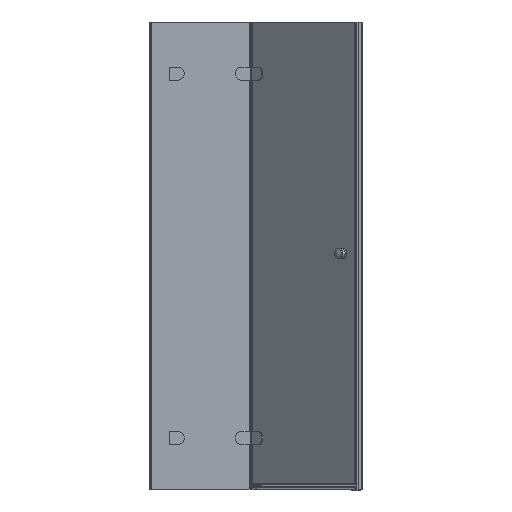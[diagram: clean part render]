
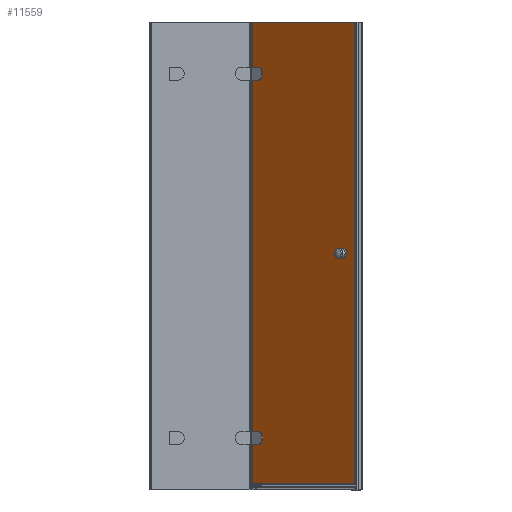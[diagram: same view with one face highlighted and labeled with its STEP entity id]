
A CAD part, left-side view. The second image highlights one B-rep face of the part: STEP entity #11559.
In plain terms, the highlighted planar face has unit normal (-0.707, 0.707, 0).
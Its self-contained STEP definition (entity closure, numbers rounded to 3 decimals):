
#164=LINE($,#15809,#1344);
#168=LINE($,#15817,#1348);
#172=LINE($,#15828,#1352);
#214=LINE($,#15937,#1394);
#218=LINE($,#15945,#1398);
#222=LINE($,#15956,#1402);
#1186=LINE($,#19211,#2366);
#1202=LINE($,#19251,#2382);
#1259=LINE($,#19412,#2439);
#1260=LINE($,#19413,#2440);
#1344=VECTOR($,#12740,52.);
#1348=VECTOR($,#12746,23.);
#1352=VECTOR($,#12758,23.);
#1394=VECTOR($,#12864,52.);
#1398=VECTOR($,#12870,23.);
#1402=VECTOR($,#12882,23.);
#2366=VECTOR($,#15346,1880.);
#2382=VECTOR($,#15384,595.);
#2439=VECTOR($,#15557,595.);
#2440=VECTOR($,#15558,1880.);
#2529=FACE_BOUND($,#3972,.T.);
#2530=FACE_BOUND($,#3973,.T.);
#2531=FACE_BOUND($,#3974,.T.);
#3972=EDGE_LOOP($,(#9754,#9755,#9756,#9757));
#3973=EDGE_LOOP($,(#9758,#9759,#9760,#9761));
#3974=EDGE_LOOP($,(#9762,#9763,#9764,#9765));
#4012=CIRCLE($,#11647,26.);
#4024=CIRCLE($,#11684,26.);
#4350=VERTEX_POINT($,#15807);
#4351=VERTEX_POINT($,#15808);
#4354=VERTEX_POINT($,#15816);
#4356=VERTEX_POINT($,#15822);
#4391=VERTEX_POINT($,#15935);
#4392=VERTEX_POINT($,#15936);
#4395=VERTEX_POINT($,#15944);
#4397=VERTEX_POINT($,#15950);
#5162=VERTEX_POINT($,#19205);
#5164=VERTEX_POINT($,#19209);
#5177=VERTEX_POINT($,#19250);
#5223=VERTEX_POINT($,#19411);
#5333=EDGE_CURVE($,#4350,#4351,#164,.T.);
#5337=EDGE_CURVE($,#4351,#4354,#168,.T.);
#5340=EDGE_CURVE($,#4354,#4356,#4012,.T.);
#5343=EDGE_CURVE($,#4356,#4350,#172,.T.);
#5395=EDGE_CURVE($,#4391,#4392,#214,.T.);
#5399=EDGE_CURVE($,#4392,#4395,#218,.T.);
#5402=EDGE_CURVE($,#4395,#4397,#4024,.T.);
#5405=EDGE_CURVE($,#4397,#4391,#222,.T.);
#6654=EDGE_CURVE($,#5162,#5164,#1186,.T.);
#6674=EDGE_CURVE($,#5177,#5162,#1202,.T.);
#6756=EDGE_CURVE($,#5223,#5164,#1259,.T.);
#6757=EDGE_CURVE($,#5177,#5223,#1260,.T.);
#9754=ORIENTED_EDGE($,*,*,#5333,.T.);
#9755=ORIENTED_EDGE($,*,*,#5337,.T.);
#9756=ORIENTED_EDGE($,*,*,#5340,.T.);
#9757=ORIENTED_EDGE($,*,*,#5343,.T.);
#9758=ORIENTED_EDGE($,*,*,#5395,.T.);
#9759=ORIENTED_EDGE($,*,*,#5399,.T.);
#9760=ORIENTED_EDGE($,*,*,#5402,.T.);
#9761=ORIENTED_EDGE($,*,*,#5405,.T.);
#9762=ORIENTED_EDGE($,*,*,#6674,.T.);
#9763=ORIENTED_EDGE($,*,*,#6654,.T.);
#9764=ORIENTED_EDGE($,*,*,#6756,.F.);
#9765=ORIENTED_EDGE($,*,*,#6757,.F.);
#10292=PLANE($,#12505);
#11559=ADVANCED_FACE($,(#2529,#2530,#2531),#10292,.T.);
#11647=AXIS2_PLACEMENT_3D($,#15823,#12751,#12752);
#11684=AXIS2_PLACEMENT_3D($,#15951,#12875,#12876);
#12505=AXIS2_PLACEMENT_3D($,#19410,#15555,#15556);
#12740=DIRECTION($,(0.,0.,1.));
#12746=DIRECTION($,(-0.707,-0.707,0.));
#12751=DIRECTION('center_axis',(0.707,-0.707,0.));
#12752=DIRECTION('ref_axis',(0.,0.,
-1.));
#12758=DIRECTION($,(0.707,0.707,0.));
#12864=DIRECTION($,(0.,0.,1.));
#12870=DIRECTION($,(-0.707,-0.707,0.));
#12875=DIRECTION('center_axis',(0.707,-0.707,0.));
#12876=DIRECTION('ref_axis',(0.,0.,
-1.));
#12882=DIRECTION($,(0.707,0.707,0.));
#15346=DIRECTION($,(0.,0.,1.));
#15384=DIRECTION($,(-0.707,-0.707,0.));
#15555=DIRECTION('center_axis',(-0.707,0.707,0.));
#15556=DIRECTION('ref_axis',(-0.707,-0.707,0.));
#15557=DIRECTION($,(-0.707,-0.707,0.));
#15558=DIRECTION($,(0.,0.,1.));
#15807=CARTESIAN_POINT('',(1332.351,298.774,-255.056));
#15808=CARTESIAN_POINT('',(1332.351,298.774,-203.056));
#15809=CARTESIAN_POINT($,(1332.351,298.774,-311.056));
#15816=CARTESIAN_POINT('',(1316.088,282.511,-203.056));
#15817=CARTESIAN_POINT($,(1328.816,295.238,-203.056));
#15822=CARTESIAN_POINT('',(1316.088,282.511,-255.056));
#15823=CARTESIAN_POINT('Origin',(1316.088,282.511,-229.056));
#15828=CARTESIAN_POINT($,(1336.947,303.37,-255.056));
#15935=CARTESIAN_POINT('',(1332.351,298.774,1224.944));
#15936=CARTESIAN_POINT('',(1332.351,298.774,1276.944));
#15937=CARTESIAN_POINT($,(1332.351,298.774,428.944));
#15944=CARTESIAN_POINT('',(1316.088,282.511,1276.944));
#15945=CARTESIAN_POINT($,(1328.816,295.238,1276.944));
#15950=CARTESIAN_POINT('',(1316.088,282.511,1224.944));
#15951=CARTESIAN_POINT('Origin',(1316.088,282.511,1250.944));
#15956=CARTESIAN_POINT($,(1336.947,303.37,1224.944));
#19205=CARTESIAN_POINT('',(920.815,-112.762,-419.056));
#19209=CARTESIAN_POINT('',(920.815,-112.762,1460.944));
#19211=CARTESIAN_POINT($,(920.815,-112.762,-419.056));
#19250=CARTESIAN_POINT('',(1341.544,307.966,-419.056));
#19251=CARTESIAN_POINT($,(1341.544,307.966,-419.056));
#19410=CARTESIAN_POINT('Origin',(1341.544,307.966,-419.056));
#19411=CARTESIAN_POINT('',(1341.544,307.966,1460.944));
#19412=CARTESIAN_POINT($,(1341.544,307.966,1460.944));
#19413=CARTESIAN_POINT($,(1341.544,307.966,-419.056));
